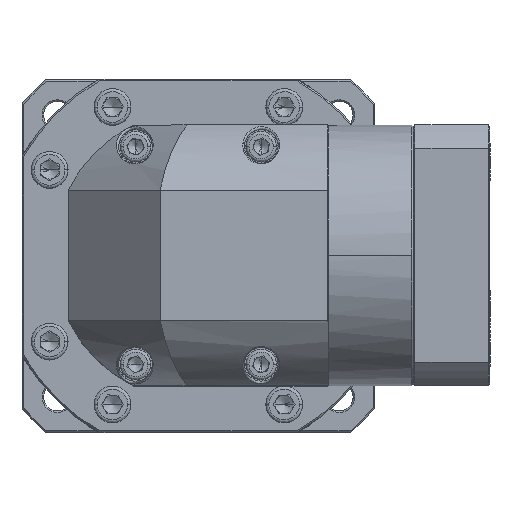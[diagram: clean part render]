
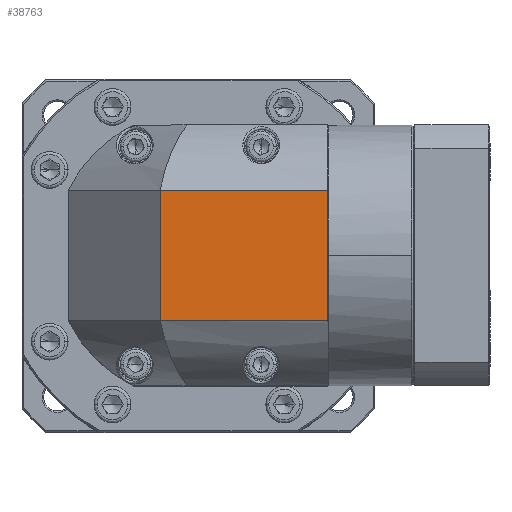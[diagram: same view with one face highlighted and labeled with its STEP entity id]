
A CAD part, top view. The second image highlights one B-rep face of the part: STEP entity #38763.
In plain terms, the highlighted planar face has unit normal (0, 0, 1).
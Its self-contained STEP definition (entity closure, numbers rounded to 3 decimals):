
#7633 = ORIENTED_EDGE ( 'NONE', *, *, #71671, .F. ) ;
#7779 = CARTESIAN_POINT ( 'NONE',  ( 9.669, -2.065, 319.002 ) ) ;
#10458 = CARTESIAN_POINT ( 'NONE',  ( -90.331, 19.148, 319.002 ) ) ;
#11520 = CARTESIAN_POINT ( 'NONE',  ( -44.831, 19.148, 319.002 ) ) ;
#15476 = VERTEX_POINT ( 'NONE', #11520 ) ;
#27197 = ORIENTED_EDGE ( 'NONE', *, *, #36962, .T. ) ;
#28917 = CARTESIAN_POINT ( 'NONE',  ( 9.669, 19.148, 319.002 ) ) ;
#29411 = VECTOR ( 'NONE', #127953, 1000. ) ;
#35836 = DIRECTION ( 'NONE',  ( 0., 1., 0. ) ) ;
#36962 = EDGE_CURVE ( 'NONE', #102226, #61210, #88896, .T. ) ;
#38763 = ADVANCED_FACE ( 'NONE', ( #62458 ), #66282, .T. ) ;
#52021 = VERTEX_POINT ( 'NONE', #113534 ) ;
#55257 = DIRECTION ( 'NONE',  ( 1., 0., 0. ) ) ;
#58760 = VECTOR ( 'NONE', #99331, 1000. ) ;
#61210 = VERTEX_POINT ( 'NONE', #28917 ) ;
#62458 = FACE_OUTER_BOUND ( 'NONE', #131618, .T. ) ;
#66282 = PLANE ( 'NONE',  #109830 ) ;
#67815 = CARTESIAN_POINT ( 'NONE',  ( -44.831, -2.065, 319.002 ) ) ;
#68116 = EDGE_CURVE ( 'NONE', #102226, #52021, #92989, .T. ) ;
#68761 = VECTOR ( 'NONE', #100228, 1000. ) ;
#70279 = LINE ( 'NONE', #10458, #68761 ) ;
#71671 = EDGE_CURVE ( 'NONE', #15476, #61210, #70279, .T. ) ;
#76397 = VECTOR ( 'NONE', #35836, 1000. ) ;
#79158 = ORIENTED_EDGE ( 'NONE', *, *, #106630, .F. ) ;
#85419 = CARTESIAN_POINT ( 'NONE',  ( -32.331, -2.065, 319.002 ) ) ;
#88896 = LINE ( 'NONE', #7779, #58760 ) ;
#92989 = LINE ( 'NONE', #106725, #29411 ) ;
#99331 = DIRECTION ( 'NONE',  ( 0., 1., 0. ) ) ;
#100228 = DIRECTION ( 'NONE',  ( 1., 0., 0. ) ) ;
#102226 = VERTEX_POINT ( 'NONE', #118692 ) ;
#106589 = LINE ( 'NONE', #67815, #76397 ) ;
#106630 = EDGE_CURVE ( 'NONE', #52021, #15476, #106589, .T. ) ;
#106725 = CARTESIAN_POINT ( 'NONE',  ( -90.331, -23.279, 319.002 ) ) ;
#109830 = AXIS2_PLACEMENT_3D ( 'NONE', #85419, #116061, #55257 ) ;
#113534 = CARTESIAN_POINT ( 'NONE',  ( -44.831, -23.279, 319.002 ) ) ;
#116061 = DIRECTION ( 'NONE',  ( 0., 0., 1. ) ) ;
#118692 = CARTESIAN_POINT ( 'NONE',  ( 9.669, -23.279, 319.002 ) ) ;
#123052 = ORIENTED_EDGE ( 'NONE', *, *, #68116, .F. ) ;
#127953 = DIRECTION ( 'NONE',  ( -1., 0., 0. ) ) ;
#131618 = EDGE_LOOP ( 'NONE', ( #7633, #79158, #123052, #27197 ) ) ;
